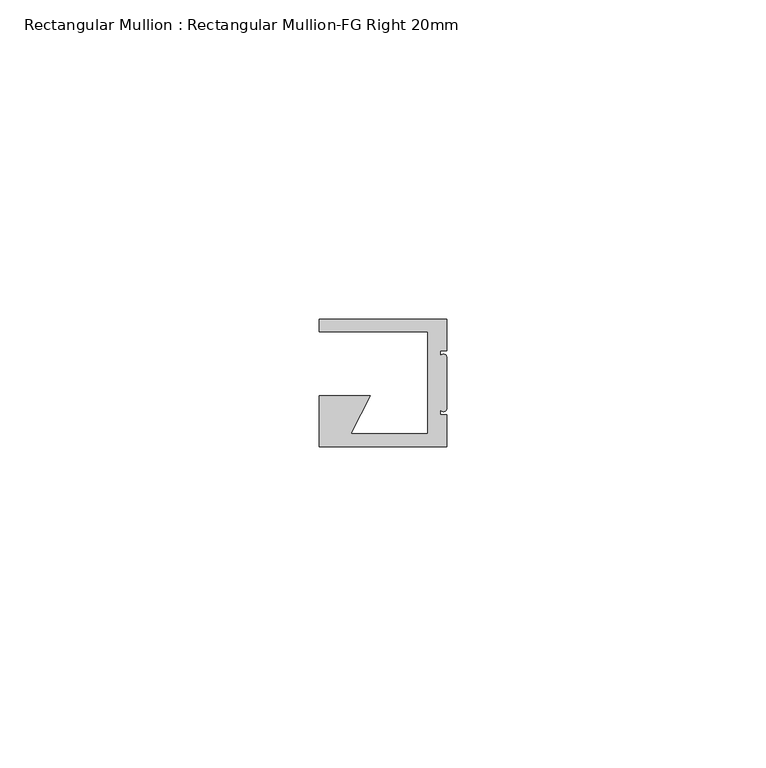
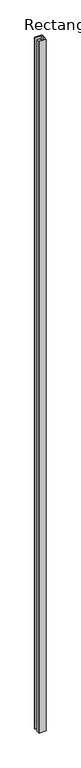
"""IFC4 building model written with IfcOpenShell, lengths in millimetres: member geometry, Rectangular Mullion : Rectangular Mullion-FG Right 20mm."""

import ifcopenshell
import ifcopenshell.guid

model = None  # the IFC model being written
_history = None  # IfcOwnerHistory: only IFC2X3 demands one
_inside = {}  # id of a spatial element -> (the spatial element, [elements in it])
_under = {}  # id of a project, library or spatial element -> (it, [spatial elements below it])
_declared = {}  # id of a project -> (the project, [libraries it declares])
_typed = {}  # id of a type object -> (the type object, [elements of that type])
_made_of = {}  # id of a material, layer set ... -> (it, [elements and type objects made of it])


def new_model(schema):
    """Start an empty IFC model of exactly this schema.

    Asked for "IFC4X3", IfcOpenShell would pick the latest addendum, in which some entities
    have other attributes; the version numbers below select the first issue.
    IFC2X3 requires an IfcOwnerHistory on every rooted entity: one is made here for all.
    """
    global model, _history
    if schema == "IFC4X3":
        model = ifcopenshell.file(schema_version=(4, 3, 0, 0))
    else:
        model = ifcopenshell.file(schema=schema)
    _inside.clear()
    _under.clear()
    _declared.clear()
    _typed.clear()
    _made_of.clear()
    _history = None
    if model.schema == "IFC2X3":
        org = make("IfcOrganization", Name="unknown")
        user = make(
            "IfcPersonAndOrganization",
            ThePerson=make("IfcPerson", FamilyName="unknown"),
            TheOrganization=org,
        )
        app = make(
            "IfcApplication",
            ApplicationDeveloper=org,
            Version="unknown",
            ApplicationFullName="unknown",
            ApplicationIdentifier="unknown",
        )
        _history = make(
            "IfcOwnerHistory",
            OwningUser=user,
            OwningApplication=app,
            ChangeAction="ADDED",
            CreationDate=0,
        )
    return model


def make(cls, **values):
    """One entity of the class cls with the attributes given. An attribute that is None is left unset."""
    return model.create_entity(
        cls, **{name: value for name, value in values.items() if value is not None}
    )


def rooted(cls, **values):
    """An entity with a GlobalId (a new one), such as an element, a storey or a relation."""
    return make(cls, GlobalId=ifcopenshell.guid.new(), OwnerHistory=_history, **values)


def si_unit(unit_type, name, prefix=None):
    """IfcSIUnit, for example si_unit("LENGTHUNIT", "METRE", prefix="MILLI")."""
    return make("IfcSIUnit", UnitType=unit_type, Prefix=prefix, Name=name)


def assignment(units):
    """IfcUnitAssignment: the units of a project."""
    return None if units is None else make("IfcUnitAssignment", Units=units)


def point(xyz):
    """IfcCartesianPoint."""
    return None if xyz is None else make("IfcCartesianPoint", Coordinates=xyz)


def direction(xyz):
    """IfcDirection."""
    return None if xyz is None else make("IfcDirection", DirectionRatios=xyz)


def frame(location, z_axis=None, x_axis=None):
    """IfcAxis2Placement3D, a coordinate frame: its origin and axes. An axis left out is left unset."""
    return make(
        "IfcAxis2Placement3D",
        Location=point(location),
        Axis=direction(z_axis),
        RefDirection=direction(x_axis),
    )


def origin():
    """The frame at (0, 0, 0) with its axes left unset."""
    return frame((0.0, 0.0, 0.0))


def place(relative_to, where):
    """IfcLocalPlacement: puts the frame where relative to a parent placement (None: the world)."""
    return make(
        "IfcLocalPlacement", PlacementRelTo=relative_to, RelativePlacement=where
    )


def context(
    kind, dimensions, precision=None, world=None, true_north=None, identifier=None
):
    """IfcGeometricRepresentationContext, for example the 3D "Model" context."""
    return make(
        "IfcGeometricRepresentationContext",
        ContextIdentifier=identifier,
        ContextType=kind,
        CoordinateSpaceDimension=dimensions,
        Precision=precision,
        WorldCoordinateSystem=world,
        TrueNorth=true_north,
    )


def project(units=None, contexts=None):
    """IfcProject with its units and contexts."""
    return rooted(
        "IfcProject",
        Name="project",
        RepresentationContexts=contexts,
        UnitsInContext=assignment(units),
    )


def spatial(cls, under=None, at=None, **own):
    """A site, building, storey or space (cls), placed at a placement, below another one or the project."""
    s = rooted(cls, ObjectPlacement=at, **own)
    if under is not None:
        _under.setdefault(under.id(), (under, []))[1].append(s)
    return s


def circle_curve(where, radius):
    """IfcCircle in the frame where."""
    return make("IfcCircle", Position=where, Radius=radius)


def shape(context_of_items, identifier, shape_type, items):
    """IfcShapeRepresentation: the items that make up one representation, for example the "Body"."""
    return make(
        "IfcShapeRepresentation",
        ContextOfItems=context_of_items,
        RepresentationIdentifier=identifier,
        RepresentationType=shape_type,
        Items=items,
    )


def source(mapping_origin, context_of_items, identifier, shape_type, items):
    """IfcRepresentationMap: a shape defined once, which mapped items show again and again."""
    return make(
        "IfcRepresentationMap",
        MappingOrigin=mapping_origin,
        MappedRepresentation=shape(context_of_items, identifier, shape_type, items),
    )


def transform(
    local_origin,
    x_axis=None,
    y_axis=None,
    z_axis=None,
    scale=None,
    scale2=None,
    scale3=None,
    uniform=True,
):
    """IfcCartesianTransformationOperator3D, or its non-uniform kind. x_axis, y_axis, z_axis: its Axis1, 2, 3."""
    if uniform:
        return make(
            "IfcCartesianTransformationOperator3D",
            Axis1=direction(x_axis),
            Axis2=direction(y_axis),
            LocalOrigin=point(local_origin),
            Scale=scale,
            Axis3=direction(z_axis),
        )
    return make(
        "IfcCartesianTransformationOperator3DnonUniform",
        Axis1=direction(x_axis),
        Axis2=direction(y_axis),
        LocalOrigin=point(local_origin),
        Scale=scale,
        Axis3=direction(z_axis),
        Scale2=scale2,
        Scale3=scale3,
    )


def mapped(mapping_source, mapping_target):
    """IfcMappedItem: shows the shape of a source again, moved by a transform."""
    return make(
        "IfcMappedItem", MappingSource=mapping_source, MappingTarget=mapping_target
    )


def made_of(thing, what):
    """Note that an element or type object is made of a material, layer set ...; save() writes the relation."""
    if what is not None:
        _made_of.setdefault(what.id(), (what, []))[1].append(thing)
    return thing


def element(
    cls,
    number,
    at=None,
    inside=None,
    cuts=None,
    type_object=None,
    material=None,
    context=None,
    identifier="Body",
    shape_type=None,
    held_by="IfcProductDefinitionShape",
    body=None,
    shapes=None,
    **own,
):
    """One element of the class cls, such as IfcWall. Its Tag is "e" and its number.

    at: its placement. inside: the storey or other place that contains it. cuts: it is an
    opening in that element (IfcRelVoidsElement). A single representation is given by context,
    identifier, shape_type and body (its items); several are given by shapes. held_by: the class
    of the entity that holds the representations. save() writes the other relations.
    """
    e = rooted(cls, Tag="e%d" % number, ObjectPlacement=at, **own)
    if body is not None:
        shapes = [shape(context, identifier, shape_type, body)]
    if shapes is not None:
        e.Representation = make(held_by, Representations=shapes)
    if inside is not None:
        _inside.setdefault(inside.id(), (inside, []))[1].append(e)
    if cuts is not None:
        rooted(
            "IfcRelVoidsElement", RelatingBuildingElement=cuts, RelatedOpeningElement=e
        )
    if type_object is not None:
        _typed.setdefault(type_object.id(), (type_object, []))[1].append(e)
    return made_of(e, material)


def aggregate(whole, parts):
    """IfcRelAggregates: a whole, such as a stair, and the parts it consists of."""
    return rooted("IfcRelAggregates", RelatingObject=whole, RelatedObjects=parts)


def save(model, path):
    """Write the relations noted so far, then the file.

    IfcRelAggregates (storeys below a building ...), IfcRelContainedInSpatialStructure (elements
    in a storey), IfcRelDefinesByType, IfcRelAssociatesMaterial and IfcRelDeclares: one each for
    every whole, place, type object, material and project.
    """
    for whole, parts in _under.values():
        aggregate(whole, parts)
    for where, things in _inside.values():
        rooted(
            "IfcRelContainedInSpatialStructure",
            RelatedElements=things,
            RelatingStructure=where,
        )
    for kind, things in _typed.values():
        rooted("IfcRelDefinesByType", RelatedObjects=things, RelatingType=kind)
    for what, things in _made_of.values():
        rooted("IfcRelAssociatesMaterial", RelatedObjects=things, RelatingMaterial=what)
    for by, libraries in _declared.values():
        rooted("IfcRelDeclares", RelatingContext=by, RelatedDefinitions=libraries)
    model.write(path)


def plane_surface(at):
    """IfcPlane: the flat surface through the origin of the frame at, square to its z axis."""
    return make("IfcPlane", Position=at)


def cylinder_surface(at, radius):
    """IfcCylindricalSurface: all points at the distance radius from the z axis of the frame at."""
    return make("IfcCylindricalSurface", Position=at, Radius=radius)


def advanced_brep(points, edges, surfaces, faces):
    """IfcAdvancedBrep: a solid bounded by faces that lie on surfaces and meet in shared edges.

    An edge is (start, end): straight between two places in points (the first is 0);
    or (start, end, curve); or (start, end, curve, False) where it runs against its curve.
    A face is (place in surfaces, loops), or (place, loops, False) where it looks against
    its surface's normal. A loop lists edges by number (the first is 1), with a minus sign
    where the edge is run from its end to its start. The first loop is the outer one.
    """
    corners = [point(p) for p in points]
    vertices = [make("IfcVertexPoint", VertexGeometry=c) for c in corners]
    made = []
    for start, end, *more in edges:
        made.append(
            make(
                "IfcEdgeCurve",
                EdgeStart=vertices[start],
                EdgeEnd=vertices[end],
                EdgeGeometry=more[0] if more else make("IfcPolyline", Points=[corners[start], corners[end]]),
                SameSense=more[1] if len(more) > 1 else True,
            )
        )
    hull = []
    for where, loops, *sense in faces:
        bounds = []
        for j, loop in enumerate(loops):
            ring = [make("IfcOrientedEdge", EdgeElement=made[abs(k) - 1], Orientation=k > 0) for k in loop]
            bounds.append(
                make(
                    "IfcFaceOuterBound" if j == 0 else "IfcFaceBound",
                    Bound=make("IfcEdgeLoop", EdgeList=ring),
                    Orientation=True,
                )
            )
        hull.append(make("IfcAdvancedFace", Bounds=bounds, FaceSurface=surfaces[where], SameSense=sense[0] if sense else True))
    return make("IfcAdvancedBrep", Outer=make("IfcClosedShell", CfsFaces=hull))


def rectangular_mullion_rectangular_mullion_fg_right_20mm_df7b3989(model_context):
    return source(origin(), model_context, "Body", "AdvancedBrep", [
        advanced_brep(
        [(0.0, -5.0, 0.0), (0.0, 0.0, 0.0), (-20.0, 0.0, 0.0), (-20.0, -2.0, 0.0), (-3.0, -2.0, 0.0), (-3.0, -18.0, 0.0), (-15.0, -18.0, 0.0), (-12.0, -12.0, 0.0), (-20.0, -12.0, 0.0), (-20.0, -18.0, 0.0), (-20.0, -20.0, 0.0), (0.0, -20.0, 0.0), (0.0, -15.0, 0.0), (-1.0, -15.0, 0.0), (-1.0, -14.0, 0.0), (0.0, -14.0, 0.0), (0.0, -6.0, 0.0), (-1.0, -6.0, 0.0), (-1.0, -5.0, 0.0), (0.0, -5.0, -2010.000045), (-1.0, -5.0, -2010.000045), (-1.0, -6.0, -2010.000045), (0.0, -6.0, -2010.000045), (0.0, -14.0, -2010.000045), (-1.0, -14.0, -2010.000045), (-1.0, -15.0, -2010.000045), (0.0, -15.0, -2010.000045), (0.0, -20.0, -2010.000045), (-20.0, -20.0, -2010.000045), (-20.0, -18.0, -2010.000045), (-20.0, -12.0, -2010.000045), (-12.0, -12.0, -2010.000045), (-15.0, -18.0, -2010.000045), (-3.0, -18.0, -2010.000045), (-3.0, -2.0, -2010.000045), (-20.0, -2.0, -2010.000045), (-20.0, 0.0, -2010.000045), (0.0, 0.0, -2010.000045)],
        [
            (0, 1),
            (1, 2),
            (2, 3),
            (3, 4),
            (4, 5),
            (5, 6),
            (6, 7),
            (7, 8),
            (8, 9),
            (9, 10),
            (10, 11),
            (11, 12),
            (12, 13),
            (13, 14),
            (14, 15, circle_curve(frame((-0.5, -14.0, 0.0), z_axis=(0.0, 0.0, 1.0), x_axis=(1.0, 0.0, 0.0)), 0.5)),
            (15, 16),
            (16, 17, circle_curve(frame((-0.5, -6.0, 0.0), z_axis=(0.0, 0.0, 1.0), x_axis=(1.0, 0.0, 0.0)), 0.5)),
            (17, 18),
            (18, 0),
            (19, 20),
            (20, 21),
            (21, 22, circle_curve(frame((-0.5, -6.0, -2010.000045), z_axis=(0.0, 0.0, -1.0), x_axis=(1.0, 0.0, 0.0)), 0.5)),
            (22, 23),
            (23, 24, circle_curve(frame((-0.5, -14.0, -2010.000045), z_axis=(0.0, 0.0, -1.0), x_axis=(1.0, 0.0, 0.0)), 0.5)),
            (24, 25),
            (25, 26),
            (26, 27),
            (27, 28),
            (28, 29),
            (29, 30),
            (30, 31),
            (31, 32),
            (32, 33),
            (33, 34),
            (34, 35),
            (35, 36),
            (36, 37),
            (37, 19),
            (0, 19),
            (37, 1),
            (36, 2),
            (35, 3),
            (34, 4),
            (33, 5),
            (32, 6),
            (31, 7),
            (30, 8),
            (29, 9),
            (28, 10),
            (27, 11),
            (26, 12),
            (25, 13),
            (24, 14),
            (23, 15),
            (22, 16),
            (21, 17),
            (20, 18),
        ],
        [
            plane_surface(frame((0.0, -28.2842712, 0.0), z_axis=(0.0, 0.0, 1.0), x_axis=(-1.0, 0.0, 0.0))),
            plane_surface(frame((0.0, -28.2842712, -2010.000045), z_axis=(0.0, 0.0, -1.0), x_axis=(-1.0, 0.0, 0.0))),
            plane_surface(frame((0.0, -5.0, 0.0), z_axis=(1.0, 0.0, 0.0), x_axis=(0.0, 0.0, -1.0))),
            plane_surface(frame((0.0, 0.0, 0.0), z_axis=(0.0, 1.0, 0.0), x_axis=(0.0, 0.0, -1.0))),
            plane_surface(frame((-20.0, 0.0, 0.0), z_axis=(-1.0, 0.0, 0.0), x_axis=(0.0, 0.0, -1.0))),
            plane_surface(frame((-20.0, -2.0, 0.0), z_axis=(0.0, -1.0, 0.0), x_axis=(0.0, 0.0, -1.0))),
            plane_surface(frame((-3.0, -2.0, 0.0), z_axis=(-1.0, 0.0, 0.0), x_axis=(0.0, 0.0, -1.0))),
            plane_surface(frame((-3.0, -18.0, 0.0), z_axis=(0.0, 1.0, 0.0), x_axis=(0.0, 0.0, -1.0))),
            plane_surface(frame((-15.0, -18.0, 0.0), z_axis=(0.8944271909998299, -0.4472135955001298, 0.0), x_axis=(0.0, 0.0, -1.0))),
            plane_surface(frame((-12.0, -12.0, 0.0), z_axis=(0.0, 1.0, 0.0), x_axis=(0.0, 0.0, -1.0))),
            plane_surface(frame((-20.0, -12.0, 0.0), z_axis=(-1.0, 0.0, 0.0), x_axis=(0.0, 0.0, -1.0))),
            plane_surface(frame((-20.0, -18.0, 0.0), z_axis=(-1.0, 0.0, 0.0), x_axis=(0.0, 0.0, -1.0))),
            plane_surface(frame((-20.0, -20.0, 0.0), z_axis=(0.0, -1.0, 0.0), x_axis=(0.0, 0.0, -1.0))),
            plane_surface(frame((0.0, -20.0, 0.0), z_axis=(1.0, 0.0, 0.0), x_axis=(0.0, 0.0, -1.0))),
            plane_surface(frame((0.0, -15.0, 0.0), z_axis=(0.0, 1.0, 0.0), x_axis=(0.0, 0.0, -1.0))),
            plane_surface(frame((-1.0, -15.0, 0.0), z_axis=(1.0, 0.0, 0.0), x_axis=(0.0, 0.0, -1.0))),
            cylinder_surface(frame((-0.5, -14.0, 0.0), z_axis=(0.0, 0.0, 1.0), x_axis=(1.0, 0.0, 0.0)), 0.5),
            plane_surface(frame((0.0, -14.0, 0.0), z_axis=(1.0, 0.0, 0.0), x_axis=(0.0, 0.0, -1.0))),
            cylinder_surface(frame((-0.5, -6.0, 0.0), z_axis=(0.0, 0.0, 1.0), x_axis=(1.0, 0.0, 0.0)), 0.5),
            plane_surface(frame((-1.0, -6.0, 0.0), z_axis=(1.0, 0.0, 0.0), x_axis=(0.0, 0.0, -1.0))),
            plane_surface(frame((-1.0, -5.0, 0.0), z_axis=(0.0, -1.0, 0.0), x_axis=(0.0, 0.0, -1.0))),
        ],
        [
            (0, [[1, 2, 3, 4, 5, 6, 7, 8, 9, 10, 11, 12, 13, 14, 15, 16, 17, 18, 19]]),
            (1, [[20, 21, 22, 23, 24, 25, 26, 27, 28, 29, 30, 31, 32, 33, 34, 35, 36, 37, 38]]),
            (2, [[-1, 39, -38, 40]]),
            (3, [[-2, -40, -37, 41]]),
            (4, [[-3, -41, -36, 42]]),
            (5, [[-4, -42, -35, 43]]),
            (6, [[-5, -43, -34, 44]]),
            (7, [[-6, -44, -33, 45]]),
            (8, [[-7, -45, -32, 46]]),
            (9, [[-8, -46, -31, 47]]),
            (10, [[-9, -47, -30, 48]]),
            (11, [[-10, -48, -29, 49]]),
            (12, [[-11, -49, -28, 50]]),
            (13, [[-12, -50, -27, 51]]),
            (14, [[-13, -51, -26, 52]]),
            (15, [[-14, -52, -25, 53]]),
            (16, [[-15, -53, -24, 54]]),
            (17, [[-16, -54, -23, 55]]),
            (18, [[-17, -55, -22, 56]]),
            (19, [[-18, -56, -21, 57]]),
            (20, [[-19, -57, -20, -39]]),
        ],
    ),
    ])


if __name__ == "__main__":
    model = new_model("IFC4")
    model_context = context("Model", 3, world=origin())
    ifc_project = project(units=[si_unit("LENGTHUNIT", "METRE", prefix="MILLI")], contexts=[model_context])
    site = spatial("IfcSite", under=ifc_project)
    building = spatial("IfcBuilding", under=site)
    placement = place(None, origin())
    rectangular_mullion_rectangular_mullion_fg_right_20mm_shape = rectangular_mullion_rectangular_mullion_fg_right_20mm_df7b3989(model_context)
    element("IfcMember", 1, ObjectType="Rectangular Mullion : Rectangular Mullion-FG Right 20mm", at=placement, inside=building, context=model_context, shape_type="MappedRepresentation", body=[
        mapped(rectangular_mullion_rectangular_mullion_fg_right_20mm_shape, transform((0.0, 0.0, 0.0), x_axis=(1.0, 0.0, 0.0), y_axis=(0.0, 1.0, 0.0), z_axis=(0.0, 0.0, 1.0))),
    ])
    save(model, "model.ifc")
